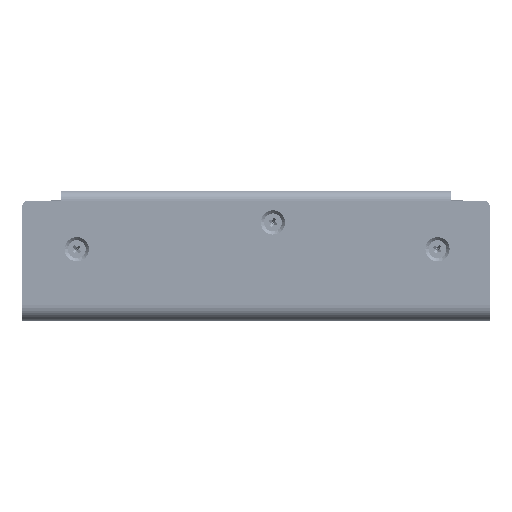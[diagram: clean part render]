
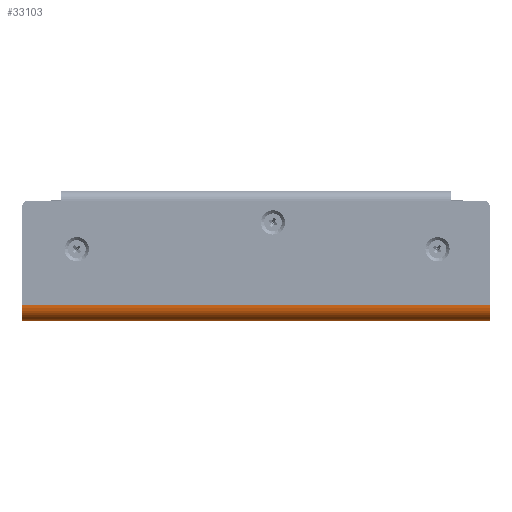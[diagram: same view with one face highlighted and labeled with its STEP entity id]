
A CAD part, front view. The second image highlights one B-rep face of the part: STEP entity #33103.
In plain terms, the highlighted cylindrical face has radius 5 mm (diameter 10 mm), a partial arc.
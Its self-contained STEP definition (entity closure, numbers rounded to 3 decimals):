
#11451 = CARTESIAN_POINT ( 'NONE',  ( -2.5, -2.5, 0. ) ) ;
#18810 = CIRCLE ( 'NONE', #34738, 5. ) ;
#21041 = DIRECTION ( 'NONE',  ( 0., 0., -1. ) ) ;
#22469 = LINE ( 'NONE', #78907, #107057 ) ;
#27390 = EDGE_CURVE ( 'NONE', #91946, #71898, #111894, .T. ) ;
#28579 = ORIENTED_EDGE ( 'NONE', *, *, #88351, .F. ) ;
#29217 = VERTEX_POINT ( 'NONE', #83180 ) ;
#30670 = CARTESIAN_POINT ( 'NONE',  ( -2.5, -2.5, 145. ) ) ;
#31734 = FACE_OUTER_BOUND ( 'NONE', #32377, .T. ) ;
#32377 = EDGE_LOOP ( 'NONE', ( #37932, #28579, #59684, #106491 ) ) ;
#33103 = ADVANCED_FACE ( 'NONE', ( #31734 ), #34686, .T. ) ;
#34686 = CYLINDRICAL_SURFACE ( 'NONE', #96546, 5. ) ;
#34738 = AXIS2_PLACEMENT_3D ( 'NONE', #77817, #21041, #58791 ) ;
#37115 = DIRECTION ( 'NONE',  ( 0., 0., -1. ) ) ;
#37932 = ORIENTED_EDGE ( 'NONE', *, *, #27390, .F. ) ;
#55410 = DIRECTION ( 'NONE',  ( 1., 0., 0. ) ) ;
#58791 = DIRECTION ( 'NONE',  ( 1., 0., 0. ) ) ;
#59684 = ORIENTED_EDGE ( 'NONE', *, *, #61026, .T. ) ;
#61026 = EDGE_CURVE ( 'NONE', #29217, #99613, #18810, .T. ) ;
#64938 = DIRECTION ( 'NONE',  ( 0., 0., -1. ) ) ;
#66407 = CARTESIAN_POINT ( 'NONE',  ( -2.5, 2.5, 145. ) ) ;
#66807 = DIRECTION ( 'NONE',  ( 0., 0., -1. ) ) ;
#71083 = EDGE_CURVE ( 'NONE', #99613, #71898, #99651, .T. ) ;
#71898 = VERTEX_POINT ( 'NONE', #11451 ) ;
#75610 = CARTESIAN_POINT ( 'NONE',  ( -2.5, -2.5, 145. ) ) ;
#77817 = CARTESIAN_POINT ( 'NONE',  ( -2.5, 2.5, 145. ) ) ;
#78907 = CARTESIAN_POINT ( 'NONE',  ( 2.5, 2.5, 145. ) ) ;
#83180 = CARTESIAN_POINT ( 'NONE',  ( 2.5, 2.5, 145. ) ) ;
#84757 = AXIS2_PLACEMENT_3D ( 'NONE', #112191, #37115, #55410 ) ;
#88351 = EDGE_CURVE ( 'NONE', #29217, #91946, #22469, .T. ) ;
#91946 = VERTEX_POINT ( 'NONE', #116355 ) ;
#96546 = AXIS2_PLACEMENT_3D ( 'NONE', #66407, #66807, #112838 ) ;
#99613 = VERTEX_POINT ( 'NONE', #30670 ) ;
#99651 = LINE ( 'NONE', #75610, #118939 ) ;
#106297 = DIRECTION ( 'NONE',  ( 0., 0., -1. ) ) ;
#106491 = ORIENTED_EDGE ( 'NONE', *, *, #71083, .T. ) ;
#107057 = VECTOR ( 'NONE', #106297, 1000. ) ;
#111894 = CIRCLE ( 'NONE', #84757, 5. ) ;
#112191 = CARTESIAN_POINT ( 'NONE',  ( -2.5, 2.5, 0. ) ) ;
#112838 = DIRECTION ( 'NONE',  ( -1., 0., 0. ) ) ;
#116355 = CARTESIAN_POINT ( 'NONE',  ( 2.5, 2.5, 0. ) ) ;
#118939 = VECTOR ( 'NONE', #64938, 1000. ) ;
